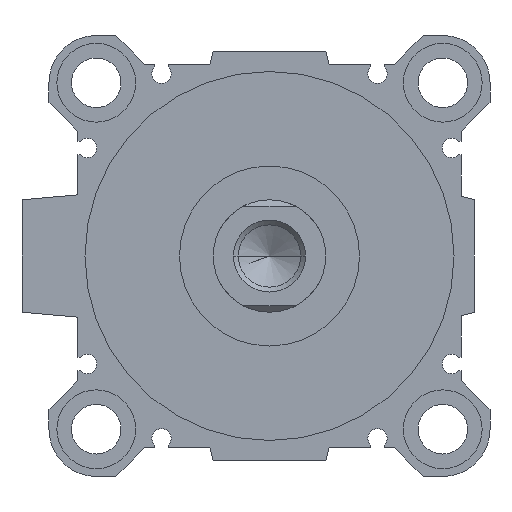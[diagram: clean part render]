
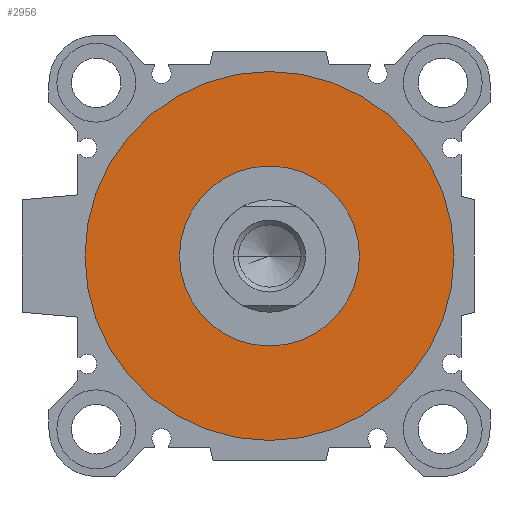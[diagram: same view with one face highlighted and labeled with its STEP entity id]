
A CAD part, left-side view. The second image highlights one B-rep face of the part: STEP entity #2956.
In plain terms, the highlighted planar face has unit normal (-1, 0, 0).
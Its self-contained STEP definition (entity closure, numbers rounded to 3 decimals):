
#106 = ORIENTED_EDGE ( 'NONE', *, *, #4796, .T. ) ;
#139 = CARTESIAN_POINT ( 'NONE',  ( 5., 0., 0. ) ) ;
#271 = EDGE_CURVE ( 'NONE', #948, #2498, #4551, .T. ) ;
#353 = DIRECTION ( 'NONE',  ( 1., 0., 0. ) ) ;
#948 = VERTEX_POINT ( 'NONE', #3944 ) ;
#1053 = DIRECTION ( 'NONE',  ( 0., 0., -1. ) ) ;
#1064 = AXIS2_PLACEMENT_3D ( 'NONE', #4096, #353, #1053 ) ;
#1171 = DIRECTION ( 'NONE',  ( 0., 0., -1. ) ) ;
#1369 = DIRECTION ( 'NONE',  ( 1., 0., 0. ) ) ;
#1422 = CARTESIAN_POINT ( 'NONE',  ( 5., 0., 41. ) ) ;
#1502 = EDGE_LOOP ( 'NONE', ( #3542, #4092 ) ) ;
#1796 = ORIENTED_EDGE ( 'NONE', *, *, #3554, .T. ) ;
#1865 = VERTEX_POINT ( 'NONE', #3041 ) ;
#1871 = DIRECTION ( 'NONE',  ( 1., 0., 0. ) ) ;
#1987 = CARTESIAN_POINT ( 'NONE',  ( 5., 0., 0. ) ) ;
#2059 = AXIS2_PLACEMENT_3D ( 'NONE', #3349, #4126, #5395 ) ;
#2498 = VERTEX_POINT ( 'NONE', #1422 ) ;
#2575 = DIRECTION ( 'NONE',  ( 0., 0., -1. ) ) ;
#2783 = EDGE_LOOP ( 'NONE', ( #1796, #106 ) ) ;
#2956 = ADVANCED_FACE ( 'NONE', ( #3767, #4095 ), #4208, .F. ) ;
#2994 = VERTEX_POINT ( 'NONE', #4981 ) ;
#3041 = CARTESIAN_POINT ( 'NONE',  ( 5., 0., 20. ) ) ;
#3349 = CARTESIAN_POINT ( 'NONE',  ( 5., 0., 0. ) ) ;
#3427 = CIRCLE ( 'NONE', #1064, 41. ) ;
#3523 = DIRECTION ( 'NONE',  ( 0., 0., -1. ) ) ;
#3542 = ORIENTED_EDGE ( 'NONE', *, *, #4135, .F. ) ;
#3554 = EDGE_CURVE ( 'NONE', #1865, #2994, #5358, .T. ) ;
#3626 = CARTESIAN_POINT ( 'NONE',  ( 5., 0., 0. ) ) ;
#3635 = DIRECTION ( 'NONE',  ( 1., 0., 0. ) ) ;
#3767 = FACE_OUTER_BOUND ( 'NONE', #1502, .T. ) ;
#3918 = CIRCLE ( 'NONE', #4191, 20. ) ;
#3944 = CARTESIAN_POINT ( 'NONE',  ( 5., 0., -41. ) ) ;
#4092 = ORIENTED_EDGE ( 'NONE', *, *, #271, .F. ) ;
#4095 = FACE_BOUND ( 'NONE', #2783, .T. ) ;
#4096 = CARTESIAN_POINT ( 'NONE',  ( 5., 0., 0. ) ) ;
#4126 = DIRECTION ( 'NONE',  ( 1., 0., 0. ) ) ;
#4135 = EDGE_CURVE ( 'NONE', #2498, #948, #3427, .T. ) ;
#4191 = AXIS2_PLACEMENT_3D ( 'NONE', #3626, #1871, #3523 ) ;
#4208 = PLANE ( 'NONE',  #2059 ) ;
#4295 = AXIS2_PLACEMENT_3D ( 'NONE', #1987, #3635, #1171 ) ;
#4383 = AXIS2_PLACEMENT_3D ( 'NONE', #139, #1369, #2575 ) ;
#4551 = CIRCLE ( 'NONE', #4295, 41. ) ;
#4796 = EDGE_CURVE ( 'NONE', #2994, #1865, #3918, .T. ) ;
#4981 = CARTESIAN_POINT ( 'NONE',  ( 5., 0., -20. ) ) ;
#5358 = CIRCLE ( 'NONE', #4383, 20. ) ;
#5395 = DIRECTION ( 'NONE',  ( 0., 1., 0. ) ) ;
